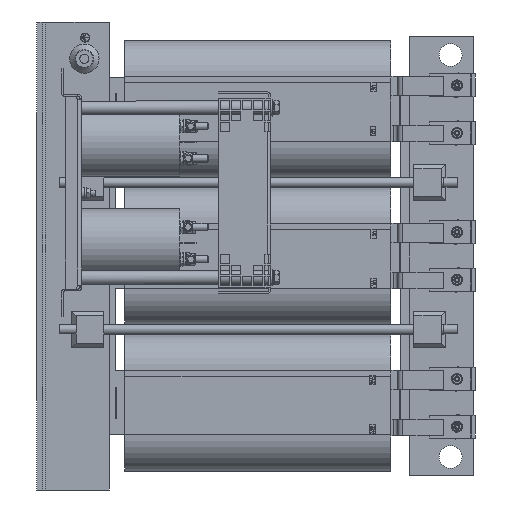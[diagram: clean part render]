
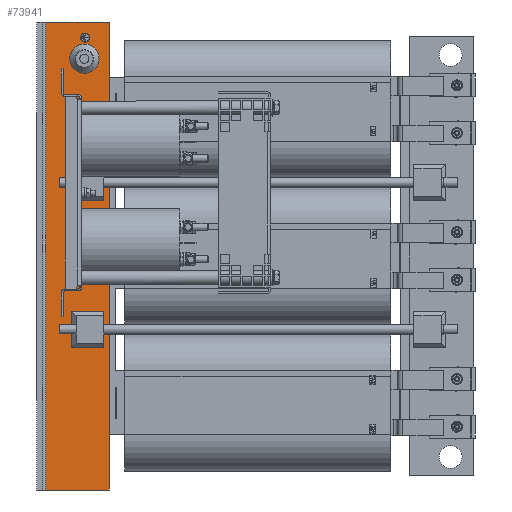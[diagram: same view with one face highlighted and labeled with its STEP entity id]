
A CAD part, front view. The second image highlights one B-rep face of the part: STEP entity #73941.
In plain terms, the highlighted planar face has unit normal (0, -1, 0).
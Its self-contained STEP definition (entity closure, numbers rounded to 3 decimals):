
#1488=FACE_BOUND('',#11437,.T.);
#1489=FACE_BOUND('',#11438,.T.);
#1490=FACE_BOUND('',#11439,.T.);
#1491=FACE_BOUND('',#11440,.T.);
#3547=PLANE('',#78748);
#6950=FACE_OUTER_BOUND('',#11436,.T.);
#11436=EDGE_LOOP('',(#59157,#59158,#59159,#59160));
#11437=EDGE_LOOP('',(#59161));
#11438=EDGE_LOOP('',(#59162,#59163,#59164,#59165));
#11439=EDGE_LOOP('',(#59166));
#11440=EDGE_LOOP('',(#59167,#59168,#59169,#59170));
#14049=CIRCLE('',#78285,5.);
#14177=CIRCLE('',#78749,16.);
#19241=LINE('',#121852,#26103);
#19242=LINE('',#121854,#26104);
#19243=LINE('',#121856,#26105);
#19244=LINE('',#121857,#26106);
#19245=LINE('',#121860,#26107);
#19246=LINE('',#121862,#26108);
#19247=LINE('',#121864,#26109);
#19248=LINE('',#121865,#26110);
#19249=LINE('',#121870,#26111);
#19250=LINE('',#121872,#26112);
#19251=LINE('',#121874,#26113);
#19252=LINE('',#121875,#26114);
#26103=VECTOR('',#92119,10.);
#26104=VECTOR('',#92120,10.);
#26105=VECTOR('',#92121,10.);
#26106=VECTOR('',#92122,10.);
#26107=VECTOR('',#92123,10.);
#26108=VECTOR('',#92124,10.);
#26109=VECTOR('',#92125,10.);
#26110=VECTOR('',#92126,10.);
#26111=VECTOR('',#92129,10.);
#26112=VECTOR('',#92130,10.);
#26113=VECTOR('',#92131,10.);
#26114=VECTOR('',#92132,10.);
#33017=VERTEX_POINT('',#117713);
#33856=VERTEX_POINT('',#121850);
#33857=VERTEX_POINT('',#121851);
#33858=VERTEX_POINT('',#121853);
#33859=VERTEX_POINT('',#121855);
#33860=VERTEX_POINT('',#121858);
#33861=VERTEX_POINT('',#121859);
#33862=VERTEX_POINT('',#121861);
#33863=VERTEX_POINT('',#121863);
#33864=VERTEX_POINT('',#121866);
#33865=VERTEX_POINT('',#121868);
#33866=VERTEX_POINT('',#121869);
#33867=VERTEX_POINT('',#121871);
#33868=VERTEX_POINT('',#121873);
#41545=EDGE_CURVE('',#33017,#33017,#14049,.T.);
#42709=EDGE_CURVE('',#33856,#33857,#19241,.T.);
#42710=EDGE_CURVE('',#33856,#33858,#19242,.T.);
#42711=EDGE_CURVE('',#33858,#33859,#19243,.T.);
#42712=EDGE_CURVE('',#33859,#33857,#19244,.T.);
#42713=EDGE_CURVE('',#33860,#33861,#19245,.T.);
#42714=EDGE_CURVE('',#33860,#33862,#19246,.T.);
#42715=EDGE_CURVE('',#33862,#33863,#19247,.T.);
#42716=EDGE_CURVE('',#33861,#33863,#19248,.T.);
#42717=EDGE_CURVE('',#33864,#33864,#14177,.T.);
#42718=EDGE_CURVE('',#33865,#33866,#19249,.T.);
#42719=EDGE_CURVE('',#33866,#33867,#19250,.T.);
#42720=EDGE_CURVE('',#33867,#33868,#19251,.T.);
#42721=EDGE_CURVE('',#33868,#33865,#19252,.T.);
#59157=ORIENTED_EDGE('',*,*,#42709,.F.);
#59158=ORIENTED_EDGE('',*,*,#42710,.T.);
#59159=ORIENTED_EDGE('',*,*,#42711,.T.);
#59160=ORIENTED_EDGE('',*,*,#42712,.T.);
#59161=ORIENTED_EDGE('',*,*,#41545,.T.);
#59162=ORIENTED_EDGE('',*,*,#42713,.F.);
#59163=ORIENTED_EDGE('',*,*,#42714,.T.);
#59164=ORIENTED_EDGE('',*,*,#42715,.T.);
#59165=ORIENTED_EDGE('',*,*,#42716,.F.);
#59166=ORIENTED_EDGE('',*,*,#42717,.T.);
#59167=ORIENTED_EDGE('',*,*,#42718,.T.);
#59168=ORIENTED_EDGE('',*,*,#42719,.T.);
#59169=ORIENTED_EDGE('',*,*,#42720,.T.);
#59170=ORIENTED_EDGE('',*,*,#42721,.T.);
#73941=ADVANCED_FACE('',(#6950,#1488,#1489,#1490,#1491),#3547,.F.);
#78285=AXIS2_PLACEMENT_3D('',#117714,#90419,#90420);
#78748=AXIS2_PLACEMENT_3D('',#121849,#92117,#92118);
#78749=AXIS2_PLACEMENT_3D('',#121867,#92127,#92128);
#90419=DIRECTION('center_axis',(0.,1.,0.));
#90420=DIRECTION('ref_axis',(-0.013,0.,-1.));
#92117=DIRECTION('center_axis',(0.,1.,0.));
#92118=DIRECTION('ref_axis',(0.,0.,1.));
#92119=DIRECTION('',(0.,0.,1.));
#92120=DIRECTION('',(1.,0.,0.));
#92121=DIRECTION('',(0.,0.,1.));
#92122=DIRECTION('',(-1.,0.,0.));
#92123=DIRECTION('',(0.,0.,1.));
#92124=DIRECTION('',(-1.,0.,0.));
#92125=DIRECTION('',(0.,0.,1.));
#92126=DIRECTION('',(-1.,0.,0.));
#92127=DIRECTION('center_axis',(0.,1.,0.));
#92128=DIRECTION('ref_axis',(-1.,0.,0.));
#92129=DIRECTION('',(0.,0.,-1.));
#92130=DIRECTION('',(-1.,0.,0.));
#92131=DIRECTION('',(0.,0.,1.));
#92132=DIRECTION('',(1.,0.,0.));
#117713=CARTESIAN_POINT('',(451.876,641.053,976.434));
#117714=CARTESIAN_POINT('Origin',(451.809,641.053,971.435));
#121849=CARTESIAN_POINT('Origin',(441.447,641.053,733.475));
#121850=CARTESIAN_POINT('',(408.947,641.053,478.475));
#121851=CARTESIAN_POINT('',(408.947,641.053,988.475));
#121852=CARTESIAN_POINT('',(408.947,641.053,605.975));
#121853=CARTESIAN_POINT('',(477.947,641.053,478.475));
#121854=CARTESIAN_POINT('',(404.947,641.053,478.475));
#121855=CARTESIAN_POINT('',(477.947,641.053,988.475));
#121856=CARTESIAN_POINT('',(477.947,641.053,478.475));
#121857=CARTESIAN_POINT('',(477.947,641.053,988.475));
#121858=CARTESIAN_POINT('',(471.947,641.053,793.475));
#121859=CARTESIAN_POINT('',(471.947,641.053,833.475));
#121860=CARTESIAN_POINT('',(471.947,641.053,828.475));
#121861=CARTESIAN_POINT('',(436.947,641.053,793.475));
#121862=CARTESIAN_POINT('',(441.947,641.053,793.475));
#121863=CARTESIAN_POINT('',(436.947,641.053,833.475));
#121864=CARTESIAN_POINT('',(436.947,641.053,828.475));
#121865=CARTESIAN_POINT('',(471.947,641.053,833.475));
#121866=CARTESIAN_POINT('',(466.947,641.053,948.475));
#121867=CARTESIAN_POINT('Origin',(450.947,641.053,948.475));
#121868=CARTESIAN_POINT('',(471.947,641.053,673.475));
#121869=CARTESIAN_POINT('',(471.947,641.053,633.475));
#121870=CARTESIAN_POINT('',(471.947,641.053,638.475));
#121871=CARTESIAN_POINT('',(436.947,641.053,633.475));
#121872=CARTESIAN_POINT('',(471.947,641.053,633.475));
#121873=CARTESIAN_POINT('',(436.947,641.053,673.475));
#121874=CARTESIAN_POINT('',(436.947,641.053,638.475));
#121875=CARTESIAN_POINT('',(441.947,641.053,673.475));
